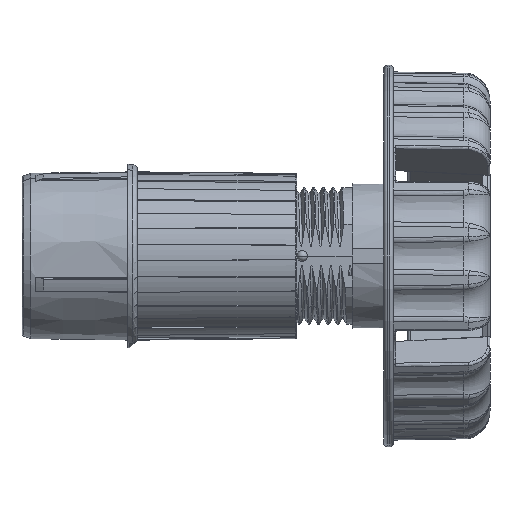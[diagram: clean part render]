
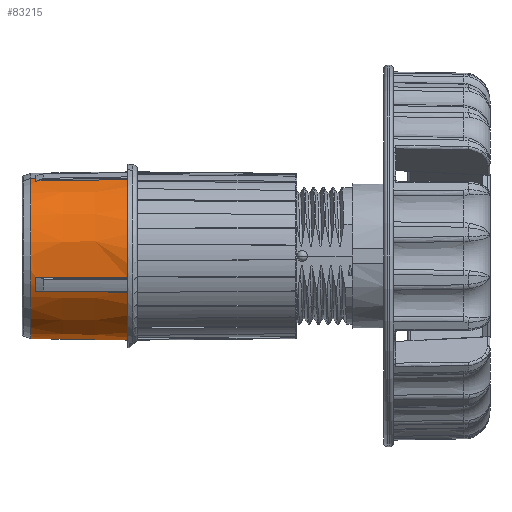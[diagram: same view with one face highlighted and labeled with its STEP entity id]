
A CAD part, left-side view. The second image highlights one B-rep face of the part: STEP entity #83215.
In plain terms, the highlighted conical face has half-angle 1 degrees and reference radius 17.285 mm.
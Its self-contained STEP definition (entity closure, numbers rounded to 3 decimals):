
#78003=CARTESIAN_POINT('',(0.,0.,0.));
#78004=DIRECTION('',(0.,-1.,0.));
#78005=DIRECTION('',(0.996,0.,0.086));
#78006=AXIS2_PLACEMENT_3D('',#78003,#78004,#78005);
#78008=CARTESIAN_POINT('',(0.,0.,0.));
#78009=DIRECTION('',(0.,-1.,0.));
#78010=DIRECTION('',(-0.086,0.,0.996));
#78011=AXIS2_PLACEMENT_3D('',#78008,#78009,#78010);
#78017=CARTESIAN_POINT('',(0.,19.,0.));
#78018=DIRECTION('',(0.,-1.,0.));
#78019=DIRECTION('',(1.,0.,0.));
#78020=AXIS2_PLACEMENT_3D('',#78017,#78018,#78019);
#78070=CARTESIAN_POINT('',(0.,19.,0.));
#78071=DIRECTION('',(0.,-1.,0.));
#78072=DIRECTION('',(0.088,0.,0.996));
#78073=AXIS2_PLACEMENT_3D('',#78070,#78071,#78072);
#78085=CARTESIAN_POINT('',(-1.5,0.,17.395));
#78086=CARTESIAN_POINT('',(-1.5,2.117,17.358));
#78087=CARTESIAN_POINT('',(-1.5,6.347,17.284));
#78088=CARTESIAN_POINT('',(-1.5,12.68,17.173));
#78089=CARTESIAN_POINT('',(-1.5,16.895,17.099));
#78090=CARTESIAN_POINT('',(-1.5,19.,17.063));
#78175=CARTESIAN_POINT('',(1.5,19.,17.063));
#78176=CARTESIAN_POINT('',(1.5,16.895,17.099));
#78177=CARTESIAN_POINT('',(1.5,12.681,17.173));
#78178=CARTESIAN_POINT('',(1.5,6.347,17.284));
#78179=CARTESIAN_POINT('',(1.5,2.117,17.358));
#78180=CARTESIAN_POINT('',(1.5,0.,17.395));
#82104=CARTESIAN_POINT('',(0.,20.09,0.));
#82105=DIRECTION('',(0.,-1.,0.));
#82106=DIRECTION('',(1.,0.,0.));
#82107=AXIS2_PLACEMENT_3D('',#82104,#82105,#82106);
#82109=DIRECTION('',(-0.017,1.,0.));
#82110=VECTOR('',#82109,1.09);
#82111=CARTESIAN_POINT('',(17.128,19.,0.));
#82112=LINE('',#82111,#82110);
#82113=DIRECTION('',(0.017,1.,0.));
#82114=VECTOR('',#82113,1.09);
#82115=CARTESIAN_POINT('',(-17.128,19.,0.));
#82116=LINE('',#82115,#82114);
#82136=CARTESIAN_POINT('',(0.,19.,0.));
#82137=DIRECTION('',(0.,-1.,0.));
#82138=DIRECTION('',(-0.996,0.,0.088));
#82139=AXIS2_PLACEMENT_3D('',#82136,#82137,#82138);
#82241=CARTESIAN_POINT('',(-17.063,19.,1.5));
#82242=CARTESIAN_POINT('',(-17.099,16.895,1.5));
#82243=CARTESIAN_POINT('',(-17.173,12.681,1.5));
#82244=CARTESIAN_POINT('',(-17.284,6.347,1.5));
#82245=CARTESIAN_POINT('',(-17.358,2.117,1.5));
#82246=CARTESIAN_POINT('',(-17.395,0.,1.5));
#82465=CARTESIAN_POINT('',(17.395,0.,1.5));
#82466=CARTESIAN_POINT('',(17.358,2.117,1.5));
#82467=CARTESIAN_POINT('',(17.284,6.347,1.5));
#82468=CARTESIAN_POINT('',(17.173,12.68,1.5));
#82469=CARTESIAN_POINT('',(17.099,16.895,1.5));
#82470=CARTESIAN_POINT('',(17.063,19.,1.5));
#82534=CARTESIAN_POINT('',(17.109,20.09,0.));
#82535=CARTESIAN_POINT('',(-17.109,20.09,0.));
#82536=VERTEX_POINT('',#82534);
#82537=VERTEX_POINT('',#82535);
#82538=CARTESIAN_POINT('',(1.5,19.,17.063));
#82539=CARTESIAN_POINT('',(-1.5,19.,17.063));
#82540=VERTEX_POINT('',#82538);
#82541=VERTEX_POINT('',#82539);
#82542=VERTEX_POINT('',#78085);
#82543=VERTEX_POINT('',#78180);
#82544=CARTESIAN_POINT('',(-17.063,19.,1.5));
#82545=CARTESIAN_POINT('',(-17.128,19.,0.));
#82546=VERTEX_POINT('',#82544);
#82547=VERTEX_POINT('',#82545);
#82548=VERTEX_POINT('',#82246);
#82558=CARTESIAN_POINT('',(17.128,19.,0.));
#82559=CARTESIAN_POINT('',(17.063,19.,1.5));
#82560=VERTEX_POINT('',#82558);
#82561=VERTEX_POINT('',#82559);
#82562=VERTEX_POINT('',#82465);
#83184=CARTESIAN_POINT('',(0.,10.045,0.));
#83185=DIRECTION('',(0.,-1.,0.));
#83186=DIRECTION('',(-1.,0.,0.));
#83187=AXIS2_PLACEMENT_3D('',#83184,#83185,#83186);
#83188=CONICAL_SURFACE('',#83187,17.285,1.);
#83190=ORIENTED_EDGE('',*,*,#83189,.T.);
#83192=ORIENTED_EDGE('',*,*,#83191,.F.);
#83194=ORIENTED_EDGE('',*,*,#83193,.T.);
#83196=ORIENTED_EDGE('',*,*,#83195,.F.);
#83198=ORIENTED_EDGE('',*,*,#83197,.T.);
#83200=ORIENTED_EDGE('',*,*,#83199,.F.);
#83202=ORIENTED_EDGE('',*,*,#83201,.T.);
#83204=ORIENTED_EDGE('',*,*,#83203,.F.);
#83206=ORIENTED_EDGE('',*,*,#83205,.T.);
#83208=ORIENTED_EDGE('',*,*,#83207,.T.);
#83210=ORIENTED_EDGE('',*,*,#83209,.F.);
#83212=ORIENTED_EDGE('',*,*,#83211,.F.);
#83213=EDGE_LOOP('',(#83190,#83192,#83194,#83196,#83198,#83200,#83202,#83204,
#83206,#83208,#83210,#83212));
#83214=FACE_OUTER_BOUND('',#83213,.F.);
#83215=ADVANCED_FACE('',(#83214),#83188,.T.);
#78007=CIRCLE('',#78006,17.46);
#78012=CIRCLE('',#78011,17.46);
#78021=CIRCLE('',#78020,17.128);
#78074=CIRCLE('',#78073,17.128);
#78091=B_SPLINE_CURVE_WITH_KNOTS('',3,(#78085,#78086,#78087,#78088,#78089,
#78090),.UNSPECIFIED.,.F.,.F.,(4,1,1,4),(0.,0.333,
0.667,1.),.UNSPECIFIED.);
#78181=B_SPLINE_CURVE_WITH_KNOTS('',3,(#78175,#78176,#78177,#78178,#78179,
#78180),.UNSPECIFIED.,.F.,.F.,(4,1,1,4),(0.,0.333,
0.667,1.),.UNSPECIFIED.);
#82108=CIRCLE('',#82107,17.109);
#82140=CIRCLE('',#82139,17.128);
#82247=B_SPLINE_CURVE_WITH_KNOTS('',3,(#82241,#82242,#82243,#82244,#82245,
#82246),.UNSPECIFIED.,.F.,.F.,(4,1,1,4),(0.,0.333,
0.667,1.),.UNSPECIFIED.);
#82471=B_SPLINE_CURVE_WITH_KNOTS('',3,(#82465,#82466,#82467,#82468,#82469,
#82470),.UNSPECIFIED.,.F.,.F.,(4,1,1,4),(0.,0.333,
0.667,1.),.UNSPECIFIED.);
#83189=EDGE_CURVE('',#82560,#82561,#78021,.T.);
#83191=EDGE_CURVE('',#82562,#82561,#82471,.T.);
#83193=EDGE_CURVE('',#82562,#82543,#78007,.T.);
#83195=EDGE_CURVE('',#82540,#82543,#78181,.T.);
#83197=EDGE_CURVE('',#82540,#82541,#78074,.T.);
#83199=EDGE_CURVE('',#82542,#82541,#78091,.T.);
#83201=EDGE_CURVE('',#82542,#82548,#78012,.T.);
#83203=EDGE_CURVE('',#82546,#82548,#82247,.T.);
#83205=EDGE_CURVE('',#82546,#82547,#82140,.T.);
#83207=EDGE_CURVE('',#82547,#82537,#82116,.T.);
#83209=EDGE_CURVE('',#82536,#82537,#82108,.T.);
#83211=EDGE_CURVE('',#82560,#82536,#82112,.T.);
